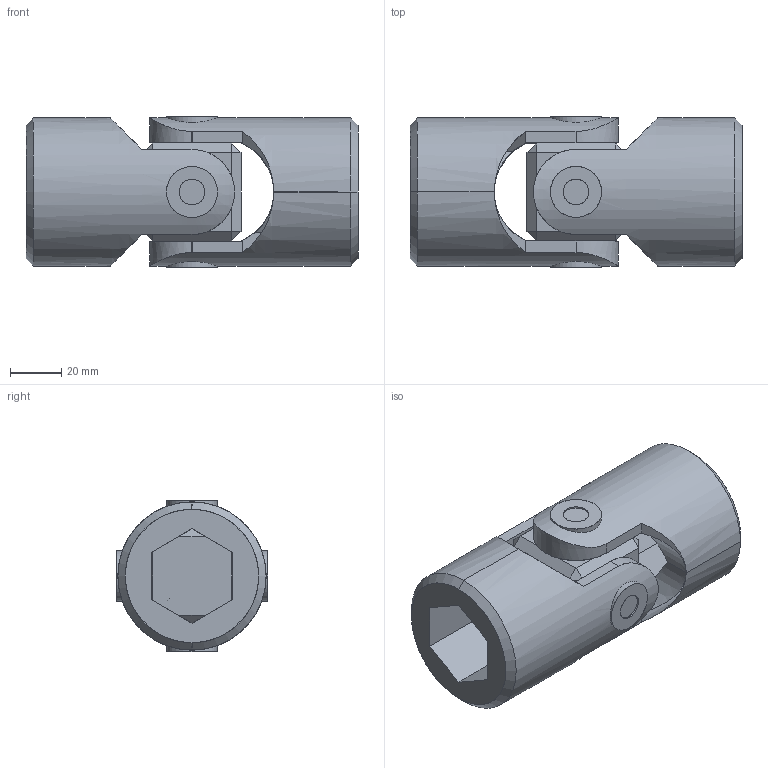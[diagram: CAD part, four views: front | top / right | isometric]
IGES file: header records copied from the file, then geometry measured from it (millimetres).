
Start section: SolidWorks IGES file using analytic representation for surfaces
Global section: file name: C:\Users\IanO\Desktop\R3690_v2\R3690_v2_20231020_IGES\R3690.032-HB.igs; native system: SolidWorks 2019; preprocessor: SolidWorks 2019; author: IanO; date: 231020.152835; units: millimetre
Bounding box: 130 x 59.16 x 59.16 mm (x, y, z)
Surface area: 58435.1 mm2 (no closed solid volume)
Topology: 0 solids, 0 shells, 112 faces, 2312 edges, 2312 vertices
Faces by surface type: bspline 68, revolution 44
